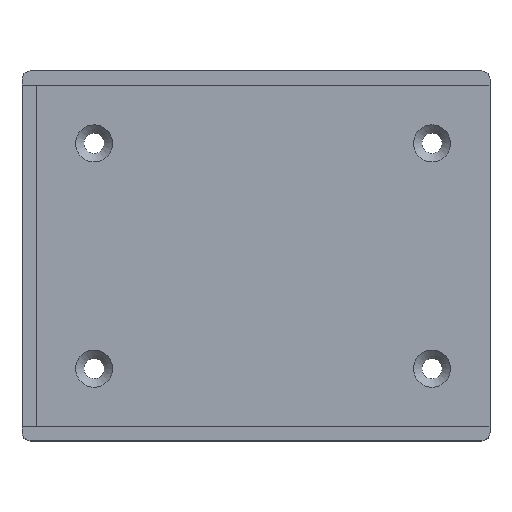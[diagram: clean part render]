
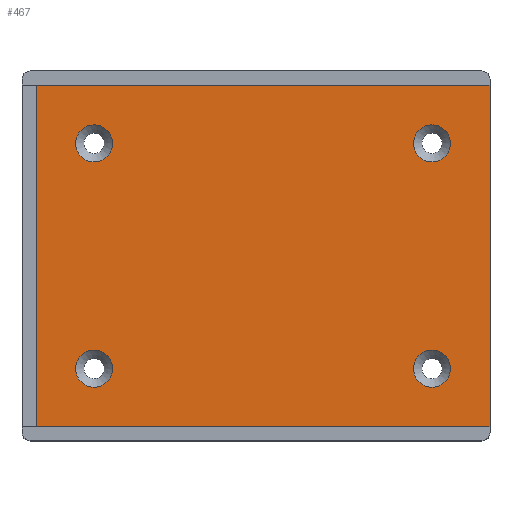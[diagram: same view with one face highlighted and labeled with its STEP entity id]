
A CAD part, top view. The second image highlights one B-rep face of the part: STEP entity #467.
In plain terms, the highlighted planar face has unit normal (0, 0, 1).
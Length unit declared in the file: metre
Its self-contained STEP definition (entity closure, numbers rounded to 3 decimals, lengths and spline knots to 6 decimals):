
#44=CIRCLE('',#525,0.00329);
#45=CIRCLE('',#526,0.00329);
#46=CIRCLE('',#527,0.00329);
#47=CIRCLE('',#528,0.00329);
#144=ORIENTED_EDGE('',*,*,#205,.T.);
#145=ORIENTED_EDGE('',*,*,#235,.T.);
#146=ORIENTED_EDGE('',*,*,#236,.T.);
#147=ORIENTED_EDGE('',*,*,#207,.F.);
#148=ORIENTED_EDGE('',*,*,#237,.T.);
#149=ORIENTED_EDGE('',*,*,#238,.T.);
#150=ORIENTED_EDGE('',*,*,#239,.T.);
#151=ORIENTED_EDGE('',*,*,#240,.T.);
#205=EDGE_CURVE('',#267,#266,#305,.T.);
#207=EDGE_CURVE('',#267,#268,#307,.T.);
#235=EDGE_CURVE('',#266,#285,#325,.F.);
#236=EDGE_CURVE('',#285,#268,#326,.F.);
#237=EDGE_CURVE('',#286,#286,#44,.F.);
#238=EDGE_CURVE('',#287,#287,#45,.F.);
#239=EDGE_CURVE('',#288,#288,#46,.F.);
#240=EDGE_CURVE('',#289,#289,#47,.F.);
#266=VERTEX_POINT('',#727);
#267=VERTEX_POINT('',#729);
#268=VERTEX_POINT('',#733);
#285=VERTEX_POINT('',#787);
#286=VERTEX_POINT('',#792);
#287=VERTEX_POINT('',#794);
#288=VERTEX_POINT('',#796);
#289=VERTEX_POINT('',#798);
#305=LINE('',#728,#347);
#307=LINE('',#732,#349);
#325=LINE('',#788,#367);
#326=LINE('',#790,#368);
#347=VECTOR('',#584,1.);
#349=VECTOR('',#588,1.);
#367=VECTOR('',#646,1.);
#368=VECTOR('',#649,1.);
#395=EDGE_LOOP('',(#144,#145,#146,#147));
#396=EDGE_LOOP('',(#148));
#397=EDGE_LOOP('',(#149));
#398=EDGE_LOOP('',(#150));
#399=EDGE_LOOP('',(#151));
#427=FACE_BOUND('',#395,.T.);
#428=FACE_BOUND('',#396,.T.);
#429=FACE_BOUND('',#397,.T.);
#430=FACE_BOUND('',#398,.T.);
#431=FACE_BOUND('',#399,.T.);
#447=PLANE('',#524);
#467=ADVANCED_FACE('',(#427,#428,#429,#430,#431),#447,.T.);
#524=AXIS2_PLACEMENT_3D('',#789,#647,#648);
#525=AXIS2_PLACEMENT_3D('',#791,#650,#651);
#526=AXIS2_PLACEMENT_3D('',#793,#652,#653);
#527=AXIS2_PLACEMENT_3D('',#795,#654,#655);
#528=AXIS2_PLACEMENT_3D('',#797,#656,#657);
#584=DIRECTION('',(0.,1.,0.));
#588=DIRECTION('',(-1.,0.,0.));
#646=DIRECTION('',(1.,0.,0.));
#647=DIRECTION('',(0.,0.,1.));
#648=DIRECTION('',(1.,0.,0.));
#649=DIRECTION('',(0.,1.,0.));
#650=DIRECTION('',(0.,0.,1.));
#651=DIRECTION('',(1.,0.,0.));
#652=DIRECTION('',(0.,0.,1.));
#653=DIRECTION('',(1.,0.,0.));
#654=DIRECTION('',(0.,0.,1.));
#655=DIRECTION('',(1.,0.,0.));
#656=DIRECTION('',(0.,0.,1.));
#657=DIRECTION('',(1.,0.,0.));
#727=CARTESIAN_POINT('',(0.1903,0.03035,0.053));
#728=CARTESIAN_POINT('',(0.1903,0.,0.053));
#729=CARTESIAN_POINT('',(0.1903,-0.03035,0.053));
#732=CARTESIAN_POINT('',(0.1072,-0.03035,0.053));
#733=CARTESIAN_POINT('',(0.1097,-0.03035,0.053));
#787=CARTESIAN_POINT('',(0.1097,0.03035,0.053));
#788=CARTESIAN_POINT('',(0.14875,0.03035,0.053));
#789=CARTESIAN_POINT('',(0.14875,0.,0.053));
#790=CARTESIAN_POINT('',(0.1097,0.,0.053));
#791=CARTESIAN_POINT('',(0.12,-0.02,0.053));
#792=CARTESIAN_POINT('',(0.11671,-0.02,0.053));
#793=CARTESIAN_POINT('',(0.18,-0.02,0.053));
#794=CARTESIAN_POINT('',(0.17671,-0.02,0.053));
#795=CARTESIAN_POINT('',(0.12,0.02,0.053));
#796=CARTESIAN_POINT('',(0.11671,0.02,0.053));
#797=CARTESIAN_POINT('',(0.18,0.02,0.053));
#798=CARTESIAN_POINT('',(0.17671,0.02,0.053));
